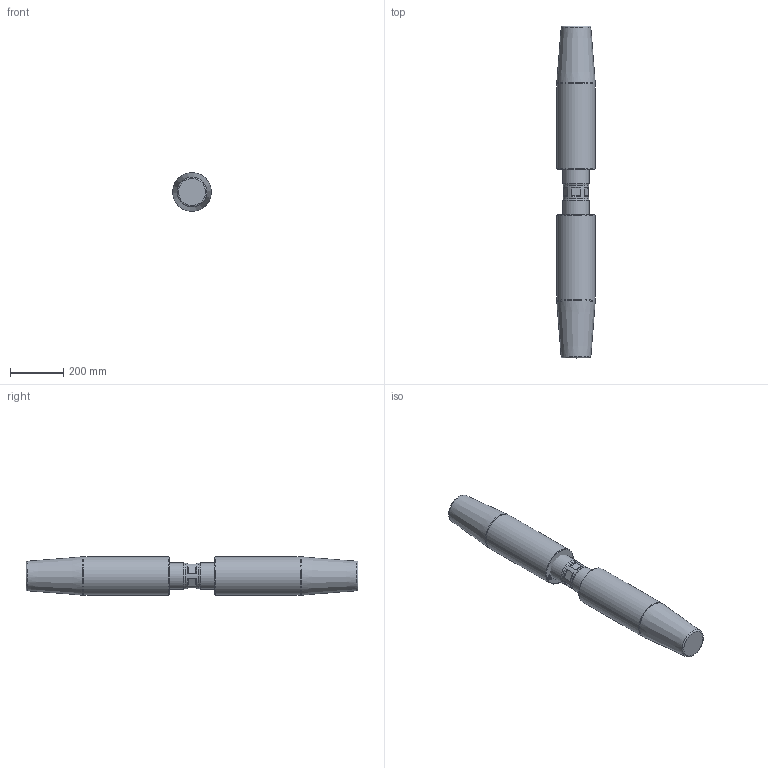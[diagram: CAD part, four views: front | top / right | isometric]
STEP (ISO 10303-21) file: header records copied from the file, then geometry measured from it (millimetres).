
FILE_DESCRIPTION(/* description */ (''),/* implementation_level */ '2;1');
FILE_NAME(/* name */ 'D:\Clienti\Redaelli (inventor)\CYA\STEP\Arrangement\CYA048 52 061 2.stp',/* time_stamp */ '2021-05-09T10:13:38+02:00',/* author */ ('fabri'),/* organization */ (''),/* preprocessor_version */ 'ST-DEVELOPER v16.13',/* originating_system */ 'Autodesk Inventor 2018',/* authorisation */ '');
FILE_SCHEMA (('AUTOMOTIVE_DESIGN { 1 0 10303 214 3 1 1 }'));
Length unit declared in the file: millimetre
Products named in the file (4): CYA012-54-062-0; TBF012-12-012-1; TBF012-13-012-0; TBF012-13-012-0_1
Assembly tree (3 placements, depth 2):
  CYA012-54-062-0
    TBF012-12-012-1
    TBF012-13-012-0
    TBF012-13-012-0_1
Bounding box: 144.9 x 1248 x 144.9 mm (x, y, z)
Volume: 20655765.5 mm3; surface area: 712633.3 mm2
Topology: 3 solids, 3 shells, 499 faces, 1323 edges, 882 vertices
Faces by surface type: bspline 249, plane 219, cylinder 19, cone 8, torus 4
Full cylindrical faces by diameter (mm): 8.376 x2, 96 x1, 100 x2, 145 x2
Entity records: 17029 total; most frequent: CARTESIAN_POINT 6315, ORIENTED_EDGE 2604, DIRECTION 1324, EDGE_CURVE 1302, VERTEX_POINT 880, LINE 754, VECTOR 754, EDGE_LOOP 570
